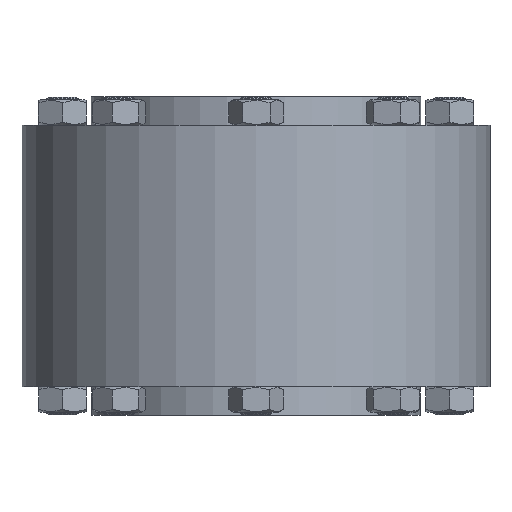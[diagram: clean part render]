
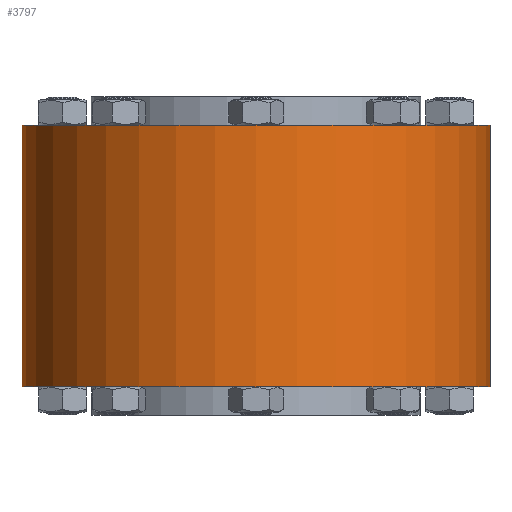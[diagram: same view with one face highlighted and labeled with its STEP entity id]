
A CAD part, front view. The second image highlights one B-rep face of the part: STEP entity #3797.
In plain terms, the highlighted cylindrical face has radius 147.5 mm (diameter 295 mm), a full revolution.
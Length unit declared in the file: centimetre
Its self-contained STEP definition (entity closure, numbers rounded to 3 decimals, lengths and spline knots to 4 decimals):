
#678=FACE_BOUND('',#1174,.T.);
#864=FACE_OUTER_BOUND('',#1173,.T.);
#1173=EDGE_LOOP('',(#2621));
#1174=EDGE_LOOP('',(#2622));
#1600=CIRCLE('',#4119,14.75);
#1617=CIRCLE('',#4137,14.75);
#1768=VERTEX_POINT('',#5569);
#1785=VERTEX_POINT('',#5604);
#2128=EDGE_CURVE('',#1768,#1768,#1600,.T.);
#2145=EDGE_CURVE('',#1785,#1785,#1617,.T.);
#2621=ORIENTED_EDGE('',*,*,#2145,.F.);
#2622=ORIENTED_EDGE('',*,*,#2128,.F.);
#3474=CYLINDRICAL_SURFACE('',#4136,14.75);
#3797=ADVANCED_FACE('',(#864,#678),#3474,.T.);
#4119=AXIS2_PLACEMENT_3D('',#5570,#4623,#4624);
#4136=AXIS2_PLACEMENT_3D('',#5603,#4657,#4658);
#4137=AXIS2_PLACEMENT_3D('',#5605,#4659,#4660);
#4623=DIRECTION('center_axis',(0.,0.,
1.));
#4624=DIRECTION('ref_axis',(0.,-1.,0.));
#4657=DIRECTION('center_axis',(0.,0.,
1.));
#4658=DIRECTION('ref_axis',(1.,0.,0.));
#4659=DIRECTION('center_axis',(0.,0.,
-1.));
#4660=DIRECTION('ref_axis',(-0.707,-0.707,0.));
#5569=CARTESIAN_POINT('',(-14.75,0.,8.25));
#5570=CARTESIAN_POINT('Origin',(0.,0.,
8.25));
#5603=CARTESIAN_POINT('Origin',(0.,0.,
7.775));
#5604=CARTESIAN_POINT('',(-14.75,0.,-8.25));
#5605=CARTESIAN_POINT('Origin',(0.,0.,
-8.25));
